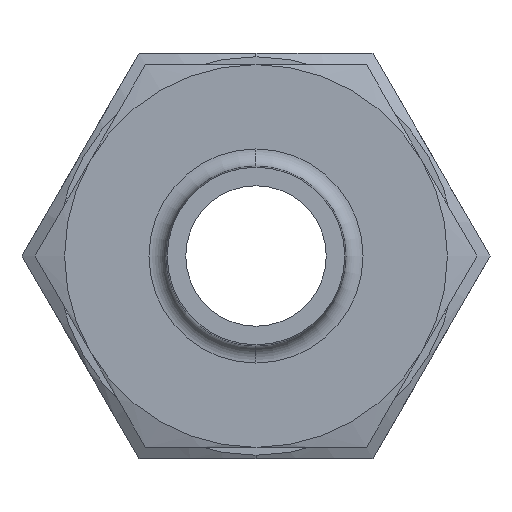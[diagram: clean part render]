
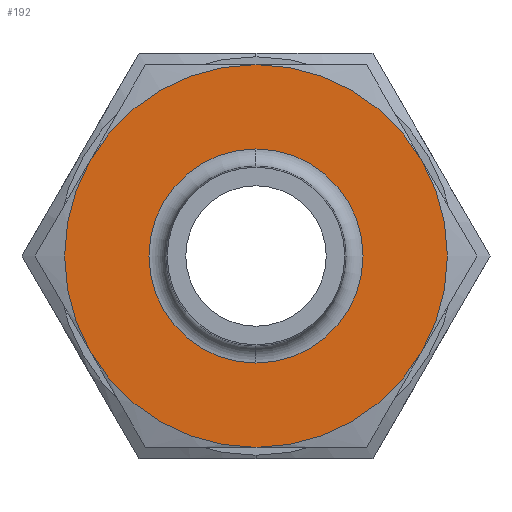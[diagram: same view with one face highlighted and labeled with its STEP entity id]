
A CAD part, left-side view. The second image highlights one B-rep face of the part: STEP entity #192.
In plain terms, the highlighted planar face has unit normal (-1, 0, 0).
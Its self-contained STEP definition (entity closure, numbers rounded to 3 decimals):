
#8 = EDGE_CURVE ( 'NONE', #182, #1753, #441, .T. ) ;
#9 = ORIENTED_EDGE ( 'NONE', *, *, #10, .F. ) ;
#10 = EDGE_CURVE ( 'NONE', #74, #182, #401, .T. ) ;
#11 = ORIENTED_EDGE ( 'NONE', *, *, #12, .F. ) ;
#12 = EDGE_CURVE ( 'NONE', #173, #74, #396, .T. ) ;
#13 = ORIENTED_EDGE ( 'NONE', *, *, #14, .T. ) ;
#14 = EDGE_CURVE ( 'NONE', #173, #1733, #391, .T. ) ;
#15 = ORIENTED_EDGE ( 'NONE', *, *, #16, .F. ) ;
#16 = EDGE_CURVE ( 'NONE', #271, #1733, #386, .T. ) ;
#74 = VERTEX_POINT ( 'NONE', #719 ) ;
#173 = VERTEX_POINT ( 'NONE', #669 ) ;
#182 = VERTEX_POINT ( 'NONE', #624 ) ;
#192 = ADVANCED_FACE ( 'NONE', ( #967, #966 ), #932, .F. ) ;
#193 = EDGE_LOOP ( 'NONE', ( #194, #196 ) ) ;
#194 = ORIENTED_EDGE ( 'NONE', *, *, #195, .T. ) ;
#195 = EDGE_CURVE ( 'NONE', #1910, #1909, #965, .T. ) ;
#196 = ORIENTED_EDGE ( 'NONE', *, *, #1908, .T. ) ;
#197 = EDGE_LOOP ( 'NONE', ( #198, #200, #9, #11, #13, #15 ) ) ;
#198 = ORIENTED_EDGE ( 'NONE', *, *, #199, .F. ) ;
#199 = EDGE_CURVE ( 'NONE', #1753, #271, #799, .T. ) ;
#200 = ORIENTED_EDGE ( 'NONE', *, *, #8, .F. ) ;
#271 = VERTEX_POINT ( 'NONE', #877 ) ;
#308 = DIRECTION ( 'NONE',  ( 0., 0., -1. ) ) ;
#309 = DIRECTION ( 'NONE',  ( 1., 0., 0. ) ) ;
#310 = CARTESIAN_POINT ( 'NONE',  ( 0., 0., 0. ) ) ;
#311 = AXIS2_PLACEMENT_3D ( 'NONE', #310, #309, #308 ) ;
#386 = CIRCLE ( 'NONE', #311, 13.495 ) ;
#387 = DIRECTION ( 'NONE',  ( 0., 0., 1. ) ) ;
#388 = DIRECTION ( 'NONE',  ( -1., 0., 0. ) ) ;
#389 = CARTESIAN_POINT ( 'NONE',  ( 0., 0., 0. ) ) ;
#390 = AXIS2_PLACEMENT_3D ( 'NONE', #389, #388, #387 ) ;
#391 = CIRCLE ( 'NONE', #390, 13.495 ) ;
#392 = DIRECTION ( 'NONE',  ( 0., 0., -1. ) ) ;
#393 = DIRECTION ( 'NONE',  ( 1., 0., 0. ) ) ;
#394 = CARTESIAN_POINT ( 'NONE',  ( 0., 0., 0. ) ) ;
#395 = AXIS2_PLACEMENT_3D ( 'NONE', #394, #393, #392 ) ;
#396 = CIRCLE ( 'NONE', #395, 13.495 ) ;
#397 = DIRECTION ( 'NONE',  ( 0., 0., -1. ) ) ;
#398 = DIRECTION ( 'NONE',  ( 1., 0., 0. ) ) ;
#399 = CARTESIAN_POINT ( 'NONE',  ( 0., 0., 0. ) ) ;
#400 = AXIS2_PLACEMENT_3D ( 'NONE', #399, #398, #397 ) ;
#401 = CIRCLE ( 'NONE', #400, 13.495 ) ;
#402 = DIRECTION ( 'NONE',  ( 0., 0., -1. ) ) ;
#403 = DIRECTION ( 'NONE',  ( 1., 0., 0. ) ) ;
#404 = CARTESIAN_POINT ( 'NONE',  ( 0., 0., 0. ) ) ;
#405 = AXIS2_PLACEMENT_3D ( 'NONE', #404, #403, #402 ) ;
#441 = CIRCLE ( 'NONE', #405, 13.495 ) ;
#624 = CARTESIAN_POINT ( 'NONE',  ( 0., -11.687, -6.748 ) ) ;
#669 = CARTESIAN_POINT ( 'NONE',  ( 0., 0., 13.495 ) ) ;
#719 = CARTESIAN_POINT ( 'NONE',  ( 0., -11.687, 6.747 ) ) ;
#767 = AXIS2_PLACEMENT_3D ( 'NONE', #964, #963, #962 ) ;
#795 = DIRECTION ( 'NONE',  ( 0., 0., -1. ) ) ;
#796 = DIRECTION ( 'NONE',  ( 1., 0., 0. ) ) ;
#797 = CARTESIAN_POINT ( 'NONE',  ( 0., 0., 0. ) ) ;
#798 = AXIS2_PLACEMENT_3D ( 'NONE', #797, #796, #795 ) ;
#799 = CIRCLE ( 'NONE', #798, 13.495 ) ;
#800 = DIRECTION ( 'NONE',  ( 0., 0., -1. ) ) ;
#801 = DIRECTION ( 'NONE',  ( 1., 0., 0. ) ) ;
#802 = CARTESIAN_POINT ( 'NONE',  ( 0., 0., 0. ) ) ;
#877 = CARTESIAN_POINT ( 'NONE',  ( 0., 11.687, -6.747 ) ) ;
#932 = PLANE ( 'NONE',  #767 ) ;
#961 = AXIS2_PLACEMENT_3D ( 'NONE', #802, #801, #800 ) ;
#962 = DIRECTION ( 'NONE',  ( 0., 0., -1. ) ) ;
#963 = DIRECTION ( 'NONE',  ( 1., 0., 0. ) ) ;
#964 = CARTESIAN_POINT ( 'NONE',  ( 0., 15.583, 0. ) ) ;
#965 = CIRCLE ( 'NONE', #961, 7.55 ) ;
#966 = FACE_OUTER_BOUND ( 'NONE', #197, .T. ) ;
#967 = FACE_BOUND ( 'NONE', #193, .T. ) ;
#1019 = CARTESIAN_POINT ( 'NONE',  ( 0., 0., -13.495 ) ) ;
#1133 = CARTESIAN_POINT ( 'NONE',  ( 0., 11.687, 6.748 ) ) ;
#1456 = CARTESIAN_POINT ( 'NONE',  ( 0., 0., -7.55 ) ) ;
#1457 = CARTESIAN_POINT ( 'NONE',  ( 0., 0., 7.55 ) ) ;
#1458 = DIRECTION ( 'NONE',  ( 0., 0., -1. ) ) ;
#1459 = DIRECTION ( 'NONE',  ( 1., 0., 0. ) ) ;
#1460 = CARTESIAN_POINT ( 'NONE',  ( 0., 0., 0. ) ) ;
#1461 = AXIS2_PLACEMENT_3D ( 'NONE', #1460, #1459, #1458 ) ;
#1467 = CIRCLE ( 'NONE', #1461, 7.55 ) ;
#1733 = VERTEX_POINT ( 'NONE', #1133 ) ;
#1753 = VERTEX_POINT ( 'NONE', #1019 ) ;
#1908 = EDGE_CURVE ( 'NONE', #1909, #1910, #1467, .T. ) ;
#1909 = VERTEX_POINT ( 'NONE', #1457 ) ;
#1910 = VERTEX_POINT ( 'NONE', #1456 ) ;
